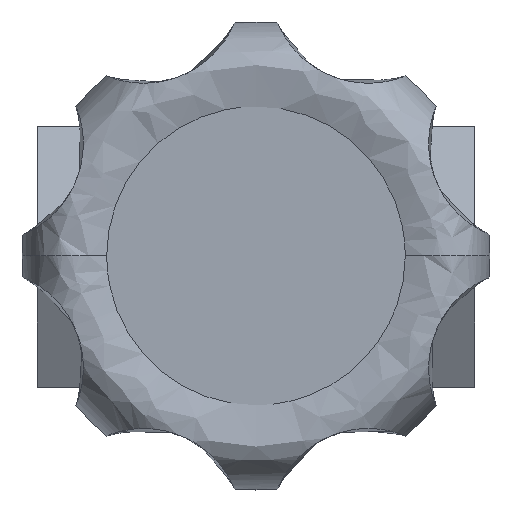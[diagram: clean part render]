
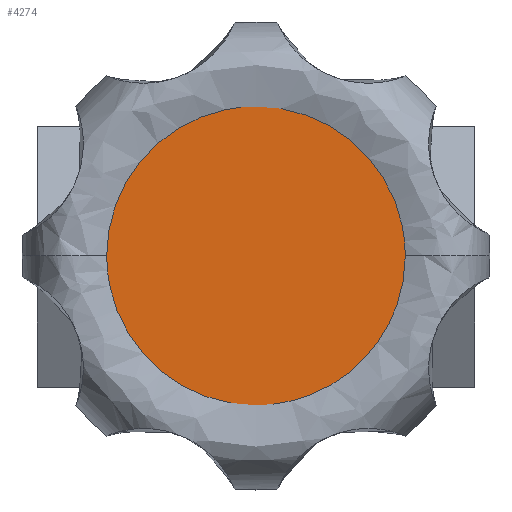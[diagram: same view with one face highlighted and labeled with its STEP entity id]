
A CAD part, top view. The second image highlights one B-rep face of the part: STEP entity #4274.
In plain terms, the highlighted free-form (B-spline) face has degree [1, 1] with [2, 2] control points.
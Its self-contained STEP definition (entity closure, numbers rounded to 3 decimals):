
#2436=CARTESIAN_POINT('',(-19.463,0.,84.871));
#2437=VERTEX_POINT('',#2436);
#2446=CARTESIAN_POINT('',(0.,19.463,84.871));
#2447=VERTEX_POINT('',#2446);
#2448=CARTESIAN_POINT('',(-19.463,0.,84.871));
#2449=CARTESIAN_POINT('',(-19.464,1.513,84.871));
#2450=CARTESIAN_POINT('',(-19.193,3.821,84.871));
#2451=CARTESIAN_POINT('',(-18.197,7.104,84.871));
#2452=CARTESIAN_POINT('',(-16.796,10.066,84.871));
#2453=CARTESIAN_POINT('',(-14.644,13.004,84.871));
#2454=CARTESIAN_POINT('',(-12.266,15.2,84.871));
#2455=CARTESIAN_POINT('',(-10.063,16.711,84.871));
#2456=CARTESIAN_POINT('',(-8.193,17.696,84.871));
#2457=CARTESIAN_POINT('',(-6.044,18.548,84.871));
#2458=CARTESIAN_POINT('',(-3.384,19.258,84.871));
#2459=CARTESIAN_POINT('',(-1.234,19.463,84.871));
#2460=CARTESIAN_POINT('',(0.,19.463,84.871));
#2461=B_SPLINE_CURVE_WITH_KNOTS('',3,(#2448,#2449,#2450,#2451,#2452,#2453,#2454,#2455,#2456,#2457,#2458,#2459,#2460),.UNSPECIFIED.,.F.,.U.,(4,1,1,1,1,1,1,1,1,1,4),(0.,4.538,6.927,10.271,14.331,17.794,19.944,22.332,24.124,26.871,30.573),.UNSPECIFIED.);
#2462=EDGE_CURVE('',#2437,#2447,#2461,.T.);
#2464=CARTESIAN_POINT('',(19.463,0.,84.871));
#2465=VERTEX_POINT('',#2464);
#2466=CARTESIAN_POINT('',(0.,19.463,84.871));
#2467=CARTESIAN_POINT('',(0.796,19.463,84.871));
#2468=CARTESIAN_POINT('',(2.508,19.358,84.871));
#2469=CARTESIAN_POINT('',(4.858,18.898,84.871));
#2470=CARTESIAN_POINT('',(7.169,18.142,84.871));
#2471=CARTESIAN_POINT('',(9.777,16.939,84.871));
#2472=CARTESIAN_POINT('',(12.186,15.286,84.871));
#2473=CARTESIAN_POINT('',(14.438,13.141,84.871));
#2474=CARTESIAN_POINT('',(15.836,11.395,84.871));
#2475=CARTESIAN_POINT('',(17.207,9.199,84.871));
#2476=CARTESIAN_POINT('',(18.429,6.595,84.871));
#2477=CARTESIAN_POINT('',(19.286,3.304,84.871));
#2478=CARTESIAN_POINT('',(19.463,0.995,84.871));
#2479=CARTESIAN_POINT('',(19.463,0.,84.871));
#2480=B_SPLINE_CURVE_WITH_KNOTS('',3,(#2466,#2467,#2468,#2469,#2470,#2471,#2472,#2473,#2474,#2475,#2476,#2477,#2478,#2479),.UNSPECIFIED.,.F.,.U.,(4,1,1,1,1,1,1,1,1,1,1,4),(0.,2.388,5.135,7.165,9.673,13.734,15.883,18.989,20.422,23.646,27.587,30.573),.UNSPECIFIED.);
#2481=EDGE_CURVE('',#2447,#2465,#2480,.T.);
#3414=CARTESIAN_POINT('',(0.,-19.463,84.871));
#3415=VERTEX_POINT('',#3414);
#3416=CARTESIAN_POINT('',(19.463,0.,84.871));
#3417=CARTESIAN_POINT('',(19.463,-8.062,84.871));
#3418=CARTESIAN_POINT('',(13.763,-13.763,84.871));
#3419=CARTESIAN_POINT('',(8.062,-19.463,84.871));
#3420=CARTESIAN_POINT('',(0.,-19.463,84.871));
#3428=(BOUNDED_CURVE()B_SPLINE_CURVE(2,(#3416,#3417,#3418,#3419,#3420),.UNSPECIFIED.,.F.,.U.)B_SPLINE_CURVE_WITH_KNOTS((3,2,3),(0.,0.5,1.),.UNSPECIFIED.)CURVE()GEOMETRIC_REPRESENTATION_ITEM()RATIONAL_B_SPLINE_CURVE((1.,0.924,1.,0.924,1.))REPRESENTATION_ITEM(''));
#3429=EDGE_CURVE('',#2465,#3415,#3428,.T.);
#3431=CARTESIAN_POINT('',(0.,-19.463,84.871));
#3432=CARTESIAN_POINT('',(-1.115,-19.463,84.871));
#3433=CARTESIAN_POINT('',(-2.826,-19.316,84.871));
#3434=CARTESIAN_POINT('',(-5.394,-18.747,84.871));
#3435=CARTESIAN_POINT('',(-7.807,-17.909,84.871));
#3436=CARTESIAN_POINT('',(-10.245,-16.625,84.871));
#3437=CARTESIAN_POINT('',(-12.217,-15.2,84.871));
#3438=CARTESIAN_POINT('',(-14.201,-13.413,84.871));
#3439=CARTESIAN_POINT('',(-15.99,-11.259,84.871));
#3440=CARTESIAN_POINT('',(-17.389,-8.842,84.871));
#3441=CARTESIAN_POINT('',(-18.306,-6.72,84.871));
#3442=CARTESIAN_POINT('',(-19.181,-3.901,84.871));
#3443=CARTESIAN_POINT('',(-19.464,-1.553,84.871));
#3444=CARTESIAN_POINT('',(-19.463,0.,84.871));
#3445=B_SPLINE_CURVE_WITH_KNOTS('',3,(#3431,#3432,#3433,#3434,#3435,#3436,#3437,#3438,#3439,#3440,#3441,#3442,#3443,#3444),.UNSPECIFIED.,.F.,.U.,(4,1,1,1,1,1,1,1,1,1,1,4),(0.,3.344,5.135,7.882,10.987,13.376,15.167,18.989,21.735,23.527,25.915,30.573),.UNSPECIFIED.);
#3446=EDGE_CURVE('',#3415,#2437,#3445,.T.);
#4263=CARTESIAN_POINT('',(21.408,-21.408,84.871));
#4264=CARTESIAN_POINT('',(-21.408,-21.408,84.871));
#4265=CARTESIAN_POINT('',(21.408,21.408,84.871));
#4266=CARTESIAN_POINT('',(-21.408,21.408,84.871));
#4267=B_SPLINE_SURFACE_WITH_KNOTS('',1,1,((#4263,#4265),(#4264,#4266)),.UNSPECIFIED.,.F.,.F.,.U.,(2,2),(2,2),(0.,42.815),(0.,42.815),.UNSPECIFIED.);
#4268=ORIENTED_EDGE('',*,*,#3446,.F.);
#4269=ORIENTED_EDGE('',*,*,#3429,.F.);
#4270=ORIENTED_EDGE('',*,*,#2481,.F.);
#4271=ORIENTED_EDGE('',*,*,#2462,.F.);
#4272=EDGE_LOOP('',(#4268,#4269,#4270,#4271));
#4273=FACE_OUTER_BOUND('',#4272,.T.);
#4274=ADVANCED_FACE('',(#4273),#4267,.F.);
